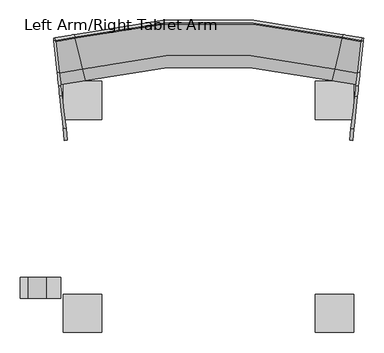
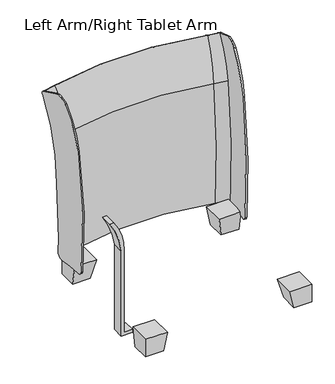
"""IFC4 building model written with IfcOpenShell, lengths in millimetres: furniture geometry, Steelcase Turnstone - Jenny - Seating - Lounge Chair : Left Arm/Right Tablet Arm."""

from ifc_helpers import new_model, si_unit, point, frame, frame_2d, origin, origin_with_axes, place, context, project, spatial, polyline, circle_curve, ellipse_curve, trimmed, segment, composite_curve, outline, extrude, faceted_brep, source, transform, mapped, element, save
from ifc_brep_helpers import plane_surface, revolved_surface, advanced_brep


def left_arm_right_tablet_arm_7bc5a1d5(model_context):
    return source(origin(), model_context, "Body", "SolidModel", [
        extrude(outline(composite_curve([segment(trimmed(circle_curve(frame_2d((-317.4695755, 631.5743694)), 14.4058816), [point((-317.4695755, 645.9802509))], [point((-317.4695755, 617.1684878))], False, "CARTESIAN"), True, "CONTINUOUS"), segment(trimmed(circle_curve(frame_2d((-317.4695755, 631.5743694)), 14.4058816), [point((-317.4695755, 617.1684878))], [point((-317.4695755, 645.9802509))], False, "CARTESIAN"), True, "CONTINUOUS")], self_intersect=False)), origin_with_axes(), (0.0, 0.0, 1.0), 7.083069),
        extrude(outline(composite_curve([segment(trimmed(circle_curve(frame_2d((318.3480103, 631.2568742)), 14.4535487), [point((318.3480103, 645.7104229))], [point((318.3480103, 616.8033255))], False, "CARTESIAN"), True, "CONTINUOUS"), segment(trimmed(circle_curve(frame_2d((318.3480103, 631.2568742)), 14.4535487), [point((318.3480103, 616.8033255))], [point((318.3480103, 645.7104229))], False, "CARTESIAN"), True, "CONTINUOUS")], self_intersect=False)), origin_with_axes(), (0.0, 0.0, 1.0), 7.083069),
        faceted_brep([(279.1777267, 593.0641473, 7.083069), (279.1777267, 669.2641473, 7.083069), (355.3777267, 669.2641473, 7.083069), (355.3777267, 593.0641473, 7.083069), (261.9561035, 575.8429601, 95.4116322), (355.3777267, 575.8429601, 95.4116322), (355.3777267, 669.2641473, 95.4116322), (261.9561035, 669.2641473, 95.4116322)], [[[0, 1, 2, 3]], [[4, 5, 6, 7]], [[4, 7, 1, 0]], [[7, 6, 2, 1]], [[6, 5, 3, 2]], [[5, 4, 0, 3]]]),
        faceted_brep([(-279.1777267, 593.0641473, 7.083069), (-355.3777267, 593.0641473, 7.083069), (-355.3777267, 669.2641473, 7.083069), (-279.1777267, 669.2641473, 7.083069), (-261.9561035, 575.8429601, 95.4116322), (-261.9561035, 669.2641473, 95.4116322), (-355.3777267, 669.2641473, 95.4116322), (-355.3777267, 575.8429601, 95.4116322)], [[[0, 1, 2, 3]], [[4, 5, 6, 7]], [[4, 7, 1, 0]], [[7, 6, 2, 1]], [[6, 5, 3, 2]], [[5, 4, 0, 3]]]),
        extrude(outline(composite_curve([segment(trimmed(circle_curve(frame_2d((-317.4695755, 90.6150358)), 14.4058816), [point((-317.4695755, 76.2091543))], [point((-317.4695755, 105.0209174))], False, "CARTESIAN"), True, "CONTINUOUS"), segment(trimmed(circle_curve(frame_2d((-317.4695755, 90.6150358)), 14.4058816), [point((-317.4695755, 105.0209174))], [point((-317.4695755, 76.2091543))], False, "CARTESIAN"), True, "CONTINUOUS")], self_intersect=False)), origin_with_axes(), (0.0, 0.0, 1.0), 7.083069),
        extrude(outline(composite_curve([segment(trimmed(circle_curve(frame_2d((318.3480103, 90.932531)), 14.4535487), [point((318.3480103, 76.4789822))], [point((318.3480103, 105.3860797))], False, "CARTESIAN"), True, "CONTINUOUS"), segment(trimmed(circle_curve(frame_2d((318.3480103, 90.932531)), 14.4535487), [point((318.3480103, 105.3860797))], [point((318.3480103, 76.4789822))], False, "CARTESIAN"), True, "CONTINUOUS")], self_intersect=False)), origin_with_axes(), (0.0, 0.0, 1.0), 7.083069),
        faceted_brep([(279.1777267, 129.1252579, 7.083069), (355.3777267, 129.1252579, 7.083069), (355.3777267, 52.9252579, 7.083069), (279.1777267, 52.9252579, 7.083069), (261.9561035, 146.3464451, 85.2737648), (261.9561035, 52.9252579, 85.2737648), (355.3777267, 52.9252579, 85.2737648), (355.3777267, 146.3464451, 85.2737648)], [[[0, 1, 2, 3]], [[4, 5, 6, 7]], [[4, 7, 1, 0]], [[7, 6, 2, 1]], [[6, 5, 3, 2]], [[5, 4, 0, 3]]]),
        faceted_brep([(-279.1777267, 129.1252579, 7.083069), (-279.1777267, 52.9252579, 7.083069), (-355.3777267, 52.9252579, 7.083069), (-355.3777267, 129.1252579, 7.083069), (-261.9561035, 146.3464451, 85.2737648), (-355.3777267, 146.3464451, 85.2737648), (-355.3777267, 52.9252579, 85.2737648), (-261.9561035, 52.9252579, 85.2737648)], [[[0, 1, 2, 3]], [[4, 5, 6, 7]], [[4, 7, 1, 0]], [[7, 6, 2, 1]], [[6, 5, 3, 2]], [[5, 4, 0, 3]]]),
        extrude(outline(composite_curve([segment(polyline([(451.6044174, -410.5083068), (69.2210428, -410.5083068), (69.2210428, -361.95), (81.9210443, -361.95), (81.9210443, -397.8085006), (452.3250069, -397.8085006)]), True, "CONTINUOUS"), segment(trimmed(circle_curve(frame_2d((452.3250069, -635.7650539)), 237.9565533), [point((452.3250069, -397.8085006))], [point((592.311266, -443.3406051))], False, "CARTESIAN"), True, "CONTINUOUS"), segment(polyline([(592.311266, -443.3406051), (592.311266, -460.7530746)]), True, "CONTINUOUS"), segment(trimmed(circle_curve(frame_2d((419.0031767, -723.9478054)), 315.1303859), [point((592.311266, -460.7530746))], [point((451.6044174, -410.5083068))], True, "CARTESIAN"), True, "CONTINUOUS")], self_intersect=False)), frame((0.0, 136.9954231, 0.0), z_axis=(0.0, 1.0, 0.0), x_axis=(0.0, 0.0, 1.0)), (0.0, 0.0, 1.0), 50.8000242),
        advanced_brep(
        [(-365.0328558, 688.9118721, 614.3798536), (-374.2086501, 766.5758751, 782.0850534), (-374.4577532, 768.6842856, 781.0193185), (-375.0846857, 773.9906478, 763.3929272), (-364.7240839, 686.2984239, 412.1857232), (-363.5844919, 676.6529077, 226.5942002), (-363.549176, 676.3539931, 111.3923483), (-362.6401057, 668.6596146, 90.0869227), (-327.0674538, 775.0009474, 782.0850534), (-308.774252, 698.9664071, 614.3798536), (-327.5640748, 777.0651215, 781.0193185), (-328.8139506, 782.2601513, 763.3929272), (-308.1586729, 696.4077914, 412.1857232), (-305.8867403, 686.964647, 226.5942002), (-305.8163331, 686.6720039, 111.3923483), (-304.0039772, 679.1390607, 90.0869227), (327.0674538, 775.0009474, 782.0850534), (308.774252, 698.9664071, 614.3798536), (327.5640748, 777.0651215, 781.0193185), (328.8139506, 782.2601513, 763.3929272), (308.1586729, 696.4077914, 412.1857232), (305.8867403, 686.964647, 226.5942002), (305.8163331, 686.6720039, 111.3923483), (304.0039772, 679.1390607, 90.0869227), (365.0328558, 688.9118721, 614.3798536), (362.6401057, 668.6596146, 90.0869227), (363.549176, 676.3539931, 111.3923483), (363.5844919, 676.6529077, 226.5942002), (364.7240839, 686.2984239, 412.1857232), (375.0846857, 773.9906478, 763.3929272), (374.4577532, 768.6842856, 781.0193185), (374.2086501, 766.5758751, 782.0850534)],
        [
            (0, 1, circle_curve(frame((-406.9820142, 1043.9699138, 549.7445151), z_axis=(-0.9930928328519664, -0.11733126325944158, 0.0), x_axis=(-0.11733126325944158, 0.9930928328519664, 0.0)), 363.3230957)),
            (1, 2),
            (2, 3, circle_curve(frame((-373.7892515, 763.0260816, 769.6690835), z_axis=(-0.9930928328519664, -0.11733126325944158, 0.0), x_axis=(-0.11733126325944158, 0.9930928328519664, 0.0)), 12.7)),
            (3, 4, circle_curve(frame((-444.1840732, 1358.8484643, 428.618251), z_axis=(0.9930928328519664, 0.11733126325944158, 0.0), x_axis=(-0.11733126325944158, 0.9930928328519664, 0.0)), 677.4270991)),
            (4, 5, circle_curve(frame((-222.1914301, -520.0991972, 382.7096079), z_axis=(-0.9930928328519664, -0.11733126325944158, 0.0), x_axis=(-0.11733126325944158, 0.9930928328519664, 0.0)), 1215.145925)),
            (5, 6, circle_curve(frame((-416.8275775, 1127.3028473, 167.8072561), z_axis=(0.9930928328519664, 0.11733126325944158, 0.0), x_axis=(-0.11733126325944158, 0.9930928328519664, 0.0)), 457.5763313)),
            (6, 7, circle_curve(frame((-360.6485798, 651.8033223, 108.3209937), z_axis=(-0.9930928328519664, -0.11733126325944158, 0.0), x_axis=(-0.11733126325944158, 0.9930928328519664, 0.0)), 24.9114856)),
            (7, 0, circle_curve(frame((-582.1375659, 2526.4880272, 279.8645269), z_axis=(-0.9930928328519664, -0.11733126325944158, 0.0), x_axis=(-0.11733126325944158, 0.9930928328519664, 0.0)), 1880.3513194)),
            (8, 1, circle_curve(frame((-421.6517332, 1168.1345426, 782.0850534), z_axis=(0.0, 0.0, -1.0), x_axis=(0.1173312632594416, -0.9930928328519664, 0.0)), 404.3515915)),
            (0, 9, circle_curve(frame((-421.6517332, 1168.1345426, 614.3798536), z_axis=(0.0, 0.0, 1.0), x_axis=(0.1173312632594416, -0.9930928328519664, 0.0)), 482.5557637)),
            (9, 8, circle_curve(frame((-392.4056407, 1046.5750026, 549.7445151), z_axis=(-0.9722568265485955, -0.2339159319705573, 0.0), x_axis=(-0.2339159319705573, 0.9722568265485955, 0.0)), 363.3230957)),
            (10, 2, circle_curve(frame((-421.6517332, 1168.1345426, 781.0193185), z_axis=(0.0, 0.0, -1.0), x_axis=(0.1173312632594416, -0.9930928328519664, 0.0)), 402.2285166)),
            (8, 10),
            (11, 3, circle_curve(frame((-421.6517332, 1168.1345426, 763.3929272), z_axis=(0.0, 0.0, -1.0), x_axis=(0.1173312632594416, -0.9930928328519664, 0.0)), 396.8852475)),
            (10, 11, circle_curve(frame((-326.2313253, 771.5256318, 769.6690835), z_axis=(-0.9722568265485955, -0.23391593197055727, 0.0), x_axis=(-0.23391593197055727, 0.9722568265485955, 0.0)), 12.7)),
            (12, 4, circle_curve(frame((-421.6517332, 1168.1345426, 412.1857232), z_axis=(0.0, 0.0, -1.0), x_axis=(0.1173312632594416, -0.9930928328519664, 0.0)), 485.187389)),
            (11, 12, circle_curve(frame((-466.5730368, 1354.8471098, 428.618251), z_axis=(0.9722568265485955, 0.23391593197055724, 0.0), x_axis=(-0.23391593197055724, 0.9722568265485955, 0.0)), 677.4270991)),
            (13, 5, circle_curve(frame((-421.6517332, 1168.1345426, 226.5942002), z_axis=(0.0, 0.0, -1.0), x_axis=(0.1173312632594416, -0.9930928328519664, 0.0)), 494.8999918)),
            (12, 13, circle_curve(frame((-24.0003198, -484.6784917, 382.7096079), z_axis=(-0.9722568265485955, -0.23391593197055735, 0.0), x_axis=(-0.23391593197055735, 0.9722568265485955, 0.0)), 1215.145925)),
            (14, 6, circle_curve(frame((-421.6517332, 1168.1345426, 111.3923483), z_axis=(0.0, 0.0, -1.0), x_axis=(0.1173312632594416, -0.9930928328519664, 0.0)), 495.2009855)),
            (13, 14, circle_curve(frame((-412.0341186, 1128.159534, 167.8072561), z_axis=(0.9722568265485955, 0.23391593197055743, 0.0), x_axis=(-0.23391593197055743, 0.9722568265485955, 0.0)), 457.5763313)),
            (15, 7, circle_curve(frame((-421.6517332, 1168.1345426, 90.0869227), z_axis=(0.0, 0.0, -1.0), x_axis=(0.1173312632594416, -0.9930928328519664, 0.0)), 502.9488799)),
            (14, 15, circle_curve(frame((-300.0335978, 662.6364289, 108.3209937), z_axis=(-0.9722568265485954, -0.2339159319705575, 0.0), x_axis=(-0.2339159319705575, 0.9722568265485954, 0.0)), 24.9114856)),
            (15, 9, circle_curve(frame((-741.6022058, 2497.9885145, 279.8645269), z_axis=(-0.9722568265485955, -0.23391593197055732, 0.0), x_axis=(-0.23391593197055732, 0.9722568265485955, 0.0)), 1880.3513194)),
            (16, 8, circle_curve(frame((0.0, -584.4343079, 782.0850534), z_axis=(0.0, 0.0, 1.0), x_axis=(-0.23391593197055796, 0.9722568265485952, 0.0)), 1398.2264955)),
            (9, 17, circle_curve(frame((0.0, -584.4343079, 614.3798536), z_axis=(0.0, 0.0, -1.0), x_axis=(-0.23391593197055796, 0.9722568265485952, 0.0)), 1320.0223232)),
            (17, 16, circle_curve(frame((392.4056407, 1046.5750026, 549.7445151), z_axis=(-0.972256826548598, 0.23391593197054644, 0.0), x_axis=(0.23391593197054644, 0.972256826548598, 0.0)), 363.3230957)),
            (18, 10, circle_curve(frame((0.0, -584.4343079, 781.0193185), z_axis=(0.0, 0.0, 1.0), x_axis=(-0.23391593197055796, 0.9722568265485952, 0.0)), 1400.3495704)),
            (16, 18),
            (19, 11, circle_curve(frame((0.0, -584.4343079, 763.3929272), z_axis=(0.0, 0.0, 1.0), x_axis=(-0.23391593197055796, 0.9722568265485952, 0.0)), 1405.6928394)),
            (18, 19, circle_curve(frame((326.2313253, 771.5256318, 769.6690835), z_axis=(-0.9722568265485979, 0.233915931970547, 0.0), x_axis=(0.233915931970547, 0.9722568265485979, 0.0)), 12.7)),
            (20, 12, circle_curve(frame((0.0, -584.4343079, 412.1857232), z_axis=(0.0, 0.0, 1.0), x_axis=(-0.23391593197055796, 0.9722568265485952, 0.0)), 1317.3906979)),
            (19, 20, circle_curve(frame((466.5730368, 1354.8471098, 428.618251), z_axis=(0.9722568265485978, -0.2339159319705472, 0.0), x_axis=(0.2339159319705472, 0.9722568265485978, 0.0)), 677.4270991)),
            (21, 13, circle_curve(frame((0.0, -584.4343079, 226.5942002), z_axis=(0.0, 0.0, 1.0), x_axis=(-0.23391593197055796, 0.9722568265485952, 0.0)), 1307.6780951)),
            (20, 21, circle_curve(frame((24.0003198, -484.6784917, 382.7096079), z_axis=(-0.972256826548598, 0.2339159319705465, 0.0), x_axis=(0.2339159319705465, 0.972256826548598, 0.0)), 1215.145925)),
            (22, 14, circle_curve(frame((0.0, -584.4343079, 111.3923483), z_axis=(0.0, 0.0, 1.0), x_axis=(-0.23391593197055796, 0.9722568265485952, 0.0)), 1307.3771015)),
            (21, 22, circle_curve(frame((412.0341186, 1128.159534, 167.8072561), z_axis=(0.972256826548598, -0.2339159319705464, 0.0), x_axis=(0.2339159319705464, 0.972256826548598, 0.0)), 457.5763313)),
            (23, 15, circle_curve(frame((0.0, -584.4343079, 90.0869227), z_axis=(0.0, 0.0, 1.0), x_axis=(-0.23391593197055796, 0.9722568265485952, 0.0)), 1299.629207)),
            (22, 23, circle_curve(frame((300.0335978, 662.6364289, 108.3209937), z_axis=(-0.972256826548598, 0.2339159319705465, 0.0), x_axis=(0.2339159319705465, 0.972256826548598, 0.0)), 24.9114856)),
            (23, 17, circle_curve(frame((741.6022058, 2497.9885145, 279.8645269), z_axis=(-0.9722568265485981, 0.23391593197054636, 0.0), x_axis=(0.23391593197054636, 0.9722568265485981, 0.0)), 1880.3513194)),
            (24, 25, circle_curve(frame((582.1375659, 2526.4880272, 279.8645269), z_axis=(0.9930928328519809, -0.11733126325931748, 0.0), x_axis=(0.11733126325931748, 0.9930928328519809, 0.0)), 1880.3513194)),
            (25, 26, circle_curve(frame((360.6485798, 651.8033223, 108.3209937), z_axis=(0.9930928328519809, -0.11733126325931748, 0.0), x_axis=(0.11733126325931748, 0.9930928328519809, 0.0)), 24.9114856)),
            (26, 27, circle_curve(frame((416.8275775, 1127.3028473, 167.8072561), z_axis=(-0.9930928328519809, 0.11733126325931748, 0.0), x_axis=(0.11733126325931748, 0.9930928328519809, 0.0)), 457.5763313)),
            (27, 28, circle_curve(frame((222.1914301, -520.0991972, 382.7096079), z_axis=(0.9930928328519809, -0.11733126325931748, 0.0), x_axis=(0.11733126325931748, 0.9930928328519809, 0.0)), 1215.145925)),
            (28, 29, circle_curve(frame((444.1840732, 1358.8484643, 428.618251), z_axis=(-0.9930928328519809, 0.11733126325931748, 0.0), x_axis=(0.11733126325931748, 0.9930928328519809, 0.0)), 677.4270991)),
            (29, 30, circle_curve(frame((373.7892515, 763.0260816, 769.6690835), z_axis=(0.9930928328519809, -0.11733126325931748, 0.0), x_axis=(0.11733126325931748, 0.9930928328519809, 0.0)), 12.7)),
            (30, 31),
            (31, 24, circle_curve(frame((406.9820142, 1043.9699138, 549.7445151), z_axis=(0.9930928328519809, -0.11733126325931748, 0.0), x_axis=(0.11733126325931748, 0.9930928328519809, 0.0)), 363.3230957)),
            (31, 16, circle_curve(frame((421.6517332, 1168.1345426, 782.0850534), z_axis=(0.0, 0.0, -1.0), x_axis=(-0.2339159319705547, -0.972256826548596, 0.0)), 404.3515915)),
            (17, 24, circle_curve(frame((421.6517332, 1168.1345426, 614.3798536), z_axis=(0.0, 0.0, 1.0), x_axis=(-0.2339159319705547, -0.972256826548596, 0.0)), 482.5557637)),
            (30, 18, circle_curve(frame((421.6517332, 1168.1345426, 781.0193185), z_axis=(0.0, 0.0, -1.0), x_axis=(-0.2339159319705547, -0.972256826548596, 0.0)), 402.2285166)),
            (29, 19, circle_curve(frame((421.6517332, 1168.1345426, 763.3929272), z_axis=(0.0, 0.0, -1.0), x_axis=(-0.2339159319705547, -0.972256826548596, 0.0)), 396.8852475)),
            (28, 20, circle_curve(frame((421.6517332, 1168.1345426, 412.1857232), z_axis=(0.0, 0.0, -1.0), x_axis=(-0.2339159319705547, -0.972256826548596, 0.0)), 485.187389)),
            (27, 21, circle_curve(frame((421.6517332, 1168.1345426, 226.5942002), z_axis=(0.0, 0.0, -1.0), x_axis=(-0.2339159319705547, -0.972256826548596, 0.0)), 494.8999918)),
            (26, 22, circle_curve(frame((421.6517332, 1168.1345426, 111.3923483), z_axis=(0.0, 0.0, -1.0), x_axis=(-0.2339159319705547, -0.972256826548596, 0.0)), 495.2009855)),
            (25, 23, circle_curve(frame((421.6517332, 1168.1345426, 90.0869227), z_axis=(0.0, 0.0, -1.0), x_axis=(-0.2339159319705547, -0.972256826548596, 0.0)), 502.9488799)),
        ],
        [
            plane_surface(frame((-355.6, 609.0720985, 0.0), z_axis=(-0.9930928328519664, -0.1173312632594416, 0.0), x_axis=(0.0, 0.0, 1.0))),
            revolved_surface(trimmed(ellipse_curve(frame((-406.9820142, 1043.9699138, 549.7445151), z_axis=(-0.9930928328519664, -0.11733126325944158, 0.0), x_axis=(-0.11733126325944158, 0.9930928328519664, 0.0)), 363.3230957, 363.3230957), [point((-365.0328558, 688.9118721, 614.3798536))], [point((-374.2086501, 766.5758751, 782.0850534))], True, "CARTESIAN"), (-421.6517332, 1168.1345426, 0.0), (0.0, 0.0, 1.0)),
            revolved_surface(polyline([(-374.2086501, 766.5758751, 782.0850534), (-374.4577532, 768.6842856, 781.0193185)]), (-421.6517332, 1168.1345426, 0.0), (0.0, 0.0, 1.0)),
            revolved_surface(trimmed(ellipse_curve(frame((-373.7892515, 763.0260816, 769.6690835), z_axis=(-0.9930928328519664, -0.11733126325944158, 0.0), x_axis=(-0.11733126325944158, 0.9930928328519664, 0.0)), 12.7, 12.7), [point((-374.4577532, 768.6842856, 781.0193185))], [point((-375.0846857, 773.9906478, 763.3929272))], True, "CARTESIAN"), (-421.6517332, 1168.1345426, 0.0), (0.0, 0.0, 1.0)),
            revolved_surface(trimmed(ellipse_curve(frame((-444.1840732, 1358.8484643, 428.618251), z_axis=(0.9930928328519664, 0.11733126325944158, 0.0), x_axis=(-0.11733126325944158, 0.9930928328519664, 0.0)), 677.4270991, 677.4270991), [point((-375.0846857, 773.9906478, 763.3929272))], [point((-364.7240839, 686.2984239, 412.1857232))], True, "CARTESIAN"), (-421.6517332, 1168.1345426, 0.0), (0.0, 0.0, 1.0)),
            revolved_surface(trimmed(ellipse_curve(frame((-222.1914301, -520.0991972, 382.7096079), z_axis=(-0.9930928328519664, -0.11733126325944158, 0.0), x_axis=(-0.11733126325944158, 0.9930928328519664, 0.0)), 1215.145925, 1215.145925), [point((-364.7240839, 686.2984239, 412.1857232))], [point((-363.5844919, 676.6529077, 226.5942002))], True, "CARTESIAN"), (-421.6517332, 1168.1345426, 0.0), (0.0, 0.0, 1.0)),
            revolved_surface(trimmed(ellipse_curve(frame((-416.8275775, 1127.3028473, 167.8072561), z_axis=(0.9930928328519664, 0.11733126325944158, 0.0), x_axis=(-0.11733126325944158, 0.9930928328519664, 0.0)), 457.5763313, 457.5763313), [point((-363.5844919, 676.6529077, 226.5942002))], [point((-363.549176, 676.3539931, 111.3923483))], True, "CARTESIAN"), (-421.6517332, 1168.1345426, 0.0), (0.0, 0.0, 1.0)),
            revolved_surface(trimmed(ellipse_curve(frame((-360.6485798, 651.8033223, 108.3209937), z_axis=(-0.9930928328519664, -0.11733126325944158, 0.0), x_axis=(-0.11733126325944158, 0.9930928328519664, 0.0)), 24.9114856, 24.9114856), [point((-363.549176, 676.3539931, 111.3923483))], [point((-362.6401057, 668.6596146, 90.0869227))], True, "CARTESIAN"), (-421.6517332, 1168.1345426, 0.0), (0.0, 0.0, 1.0)),
            revolved_surface(trimmed(ellipse_curve(frame((-582.1375659, 2526.4880272, 279.8645269), z_axis=(-0.9930928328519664, -0.11733126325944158, 0.0), x_axis=(-0.11733126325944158, 0.9930928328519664, 0.0)), 1880.3513194, 1880.3513194), [point((-362.6401057, 668.6596146, 90.0869227))], [point((-365.0328558, 688.9118721, 614.3798536))], True, "CARTESIAN"), (-421.6517332, 1168.1345426, 0.0), (0.0, 0.0, 1.0)),
            revolved_surface(trimmed(ellipse_curve(frame((-392.4056407, 1046.5750026, 549.7445151), z_axis=(-0.9722568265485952, -0.23391593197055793, 0.0), x_axis=(-0.23391593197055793, 0.9722568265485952, 0.0)), 363.3230957, 363.3230957), [point((-308.774252, 698.9664071, 614.3798536))], [point((-327.0674538, 775.0009474, 782.0850534))], True, "CARTESIAN"), (0.0, -584.4343079, 0.0), (0.0, 0.0, -1.0)),
            revolved_surface(polyline([(-327.0674538, 775.0009474, 782.0850534), (-327.5640748, 777.0651215, 781.0193185)]), (0.0, -584.4343079, 0.0), (0.0, 0.0, -1.0)),
            revolved_surface(trimmed(ellipse_curve(frame((-326.2313253, 771.5256318, 769.6690835), z_axis=(-0.9722568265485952, -0.23391593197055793, 0.0), x_axis=(-0.23391593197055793, 0.9722568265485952, 0.0)), 12.7, 12.7), [point((-327.5640748, 777.0651215, 781.0193185))], [point((-328.8139506, 782.2601513, 763.3929272))], True, "CARTESIAN"), (0.0, -584.4343079, 0.0), (0.0, 0.0, -1.0)),
            revolved_surface(trimmed(ellipse_curve(frame((-466.5730368, 1354.8471098, 428.618251), z_axis=(0.9722568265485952, 0.23391593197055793, 0.0), x_axis=(-0.23391593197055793, 0.9722568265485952, 0.0)), 677.4270991, 677.4270991), [point((-328.8139506, 782.2601513, 763.3929272))], [point((-308.1586729, 696.4077914, 412.1857232))], True, "CARTESIAN"), (0.0, -584.4343079, 0.0), (0.0, 0.0, -1.0)),
            revolved_surface(trimmed(ellipse_curve(frame((-24.0003198, -484.6784917, 382.7096079), z_axis=(-0.9722568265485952, -0.23391593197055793, 0.0), x_axis=(-0.23391593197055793, 0.9722568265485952, 0.0)), 1215.145925, 1215.145925), [point((-308.1586729, 696.4077914, 412.1857232))], [point((-305.8867403, 686.964647, 226.5942002))], True, "CARTESIAN"), (0.0, -584.4343079, 0.0), (0.0, 0.0, -1.0)),
            revolved_surface(trimmed(ellipse_curve(frame((-412.0341186, 1128.159534, 167.8072561), z_axis=(0.9722568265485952, 0.23391593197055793, 0.0), x_axis=(-0.23391593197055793, 0.9722568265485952, 0.0)), 457.5763313, 457.5763313), [point((-305.8867403, 686.964647, 226.5942002))], [point((-305.8163331, 686.6720039, 111.3923483))], True, "CARTESIAN"), (0.0, -584.4343079, 0.0), (0.0, 0.0, -1.0)),
            revolved_surface(trimmed(ellipse_curve(frame((-300.0335978, 662.6364289, 108.3209937), z_axis=(-0.9722568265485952, -0.23391593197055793, 0.0), x_axis=(-0.23391593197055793, 0.9722568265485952, 0.0)), 24.9114856, 24.9114856), [point((-305.8163331, 686.6720039, 111.3923483))], [point((-304.0039772, 679.1390607, 90.0869227))], True, "CARTESIAN"), (0.0, -584.4343079, 0.0), (0.0, 0.0, -1.0)),
            revolved_surface(trimmed(ellipse_curve(frame((-741.6022058, 2497.9885145, 279.8645269), z_axis=(-0.9722568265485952, -0.23391593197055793, 0.0), x_axis=(-0.23391593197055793, 0.9722568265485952, 0.0)), 1880.3513194, 1880.3513194), [point((-304.0039772, 679.1390607, 90.0869227))], [point((-308.774252, 698.9664071, 614.3798536))], True, "CARTESIAN"), (0.0, -584.4343079, 0.0), (0.0, 0.0, -1.0)),
            plane_surface(frame((355.6, 609.0720985, 0.0), z_axis=(0.993092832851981, -0.11733126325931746, 0.0), x_axis=(0.0, 0.0, 1.0))),
            revolved_surface(trimmed(ellipse_curve(frame((392.4056407, 1046.5750026, 549.7445151), z_axis=(-0.972256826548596, 0.2339159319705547, 0.0), x_axis=(0.2339159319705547, 0.972256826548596, 0.0)), 363.3230957, 363.3230957), [point((308.774252, 698.9664071, 614.3798536))], [point((327.0674538, 775.0009474, 782.0850534))], True, "CARTESIAN"), (421.6517332, 1168.1345426, 0.0), (0.0, 0.0, 1.0)),
            revolved_surface(polyline([(327.0674538, 775.0009474, 782.0850534), (327.5640748, 777.0651215, 781.0193185)]), (421.6517332, 1168.1345426, 0.0), (0.0, 0.0, 1.0)),
            revolved_surface(trimmed(ellipse_curve(frame((326.2313253, 771.5256318, 769.6690835), z_axis=(-0.972256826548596, 0.2339159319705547, 0.0), x_axis=(0.2339159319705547, 0.972256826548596, 0.0)), 12.7, 12.7), [point((327.5640748, 777.0651215, 781.0193185))], [point((328.8139506, 782.2601513, 763.3929272))], True, "CARTESIAN"), (421.6517332, 1168.1345426, 0.0), (0.0, 0.0, 1.0)),
            revolved_surface(trimmed(ellipse_curve(frame((466.5730368, 1354.8471098, 428.618251), z_axis=(0.972256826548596, -0.2339159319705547, 0.0), x_axis=(0.2339159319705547, 0.972256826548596, 0.0)), 677.4270991, 677.4270991), [point((328.8139506, 782.2601513, 763.3929272))], [point((308.1586729, 696.4077914, 412.1857232))], True, "CARTESIAN"), (421.6517332, 1168.1345426, 0.0), (0.0, 0.0, 1.0)),
            revolved_surface(trimmed(ellipse_curve(frame((24.0003198, -484.6784917, 382.7096079), z_axis=(-0.972256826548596, 0.2339159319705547, 0.0), x_axis=(0.2339159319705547, 0.972256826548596, 0.0)), 1215.145925, 1215.145925), [point((308.1586729, 696.4077914, 412.1857232))], [point((305.8867403, 686.964647, 226.5942002))], True, "CARTESIAN"), (421.6517332, 1168.1345426, 0.0), (0.0, 0.0, 1.0)),
            revolved_surface(trimmed(ellipse_curve(frame((412.0341186, 1128.159534, 167.8072561), z_axis=(0.972256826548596, -0.2339159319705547, 0.0), x_axis=(0.2339159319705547, 0.972256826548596, 0.0)), 457.5763313, 457.5763313), [point((305.8867403, 686.964647, 226.5942002))], [point((305.8163331, 686.6720039, 111.3923483))], True, "CARTESIAN"), (421.6517332, 1168.1345426, 0.0), (0.0, 0.0, 1.0)),
            revolved_surface(trimmed(ellipse_curve(frame((300.0335978, 662.6364289, 108.3209937), z_axis=(-0.972256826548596, 0.2339159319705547, 0.0), x_axis=(0.2339159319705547, 0.972256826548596, 0.0)), 24.9114856, 24.9114856), [point((305.8163331, 686.6720039, 111.3923483))], [point((304.0039772, 679.1390607, 90.0869227))], True, "CARTESIAN"), (421.6517332, 1168.1345426, 0.0), (0.0, 0.0, 1.0)),
            revolved_surface(trimmed(ellipse_curve(frame((741.6022058, 2497.9885145, 279.8645269), z_axis=(-0.972256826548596, 0.2339159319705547, 0.0), x_axis=(0.2339159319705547, 0.972256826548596, 0.0)), 1880.3513194, 1880.3513194), [point((304.0039772, 679.1390607, 90.0869227))], [point((308.774252, 698.9664071, 614.3798536))], True, "CARTESIAN"), (421.6517332, 1168.1345426, 0.0), (0.0, 0.0, 1.0)),
        ],
        [
            (0, [[1, 2, 3, 4, 5, 6, 7, 8]]),
            (1, [[9, -1, 10, 11]]),
            (2, [[12, -2, -9, 13]]),
            (3, [[14, -3, -12, 15]]),
            (4, [[16, -4, -14, 17]]),
            (5, [[18, -5, -16, 19]]),
            (6, [[20, -6, -18, 21]]),
            (7, [[22, -7, -20, 23]]),
            (8, [[-10, -8, -22, 24]]),
            (9, [[25, -11, 26, 27]]),
            (10, [[28, -13, -25, 29]]),
            (11, [[30, -15, -28, 31]]),
            (12, [[32, -17, -30, 33]]),
            (13, [[34, -19, -32, 35]]),
            (14, [[36, -21, -34, 37]]),
            (15, [[38, -23, -36, 39]]),
            (16, [[-26, -24, -38, 40]]),
            (17, [[41, 42, 43, 44, 45, 46, 47, 48]]),
            (18, [[49, -27, 50, -48]]),
            (19, [[51, -29, -49, -47]]),
            (20, [[52, -31, -51, -46]]),
            (21, [[53, -33, -52, -45]]),
            (22, [[54, -35, -53, -44]]),
            (23, [[55, -37, -54, -43]]),
            (24, [[56, -39, -55, -42]]),
            (25, [[-50, -40, -56, -41]]),
        ],
    ),
        advanced_brep(
        [(371.0231422, 690.4168678, 813.9027777), (367.5078894, 657.2478941, 814.4538477), (364.8381433, 632.056893, 797.7221008), (356.4068462, 552.5014564, 627.8736036), (354.3284196, 532.8899867, 97.0710008), (356.3949504, 552.3892108, 81.9987921), (366.5367036, 648.0840483, 83.5957513), (369.4625291, 675.6913448, 111.3923483), (369.4942508, 675.9906622, 226.5942002), (370.5178614, 685.6491753, 412.1857232), (379.8240192, 773.4595598, 763.3929272), (379.2608923, 768.1460475, 781.0193185), (365.286616, 691.0597009, 813.9027777), (374.4577532, 768.6842856, 781.0193185), (375.0846857, 773.9906478, 763.3929272), (364.7240839, 686.2984239, 412.1857232), (363.5844919, 676.6529077, 226.5942002), (363.549176, 676.3539931, 111.3923483), (360.2918368, 648.7838459, 83.5957513), (349.0009614, 553.2177786, 81.9987921), (346.7002803, 533.7447933, 97.0710008), (349.0142051, 553.3298731, 627.8736036), (358.4008193, 632.7782572, 797.7221008), (361.3730638, 657.9353605, 814.4538477)],
        [
            (0, 1, circle_curve(frame((369.1763053, 672.9906155, 762.9432742), z_axis=(0.9944309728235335, -0.10538994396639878, 0.0), x_axis=(-0.10538994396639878, -0.9944309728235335, 0.0)), 53.8883667)),
            (1, 2, circle_curve(frame((369.1763053, 672.9906155, 762.9432742), z_axis=(0.9944309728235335, -0.10538994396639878, 0.0), x_axis=(-0.10538994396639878, -0.9944309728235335, 0.0)), 53.8883667)),
            (2, 3, circle_curve(frame((394.086654, 908.03792, 563.2382651), z_axis=(0.9944309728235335, -0.10538994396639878, 0.0), x_axis=(-0.10538994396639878, -0.9944309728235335, 0.0)), 363.3230957)),
            (3, 4, circle_curve(frame((551.415854, 2392.5536479, 293.3582769), z_axis=(0.9944309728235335, -0.10538994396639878, 0.0), x_axis=(-0.10538994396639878, -0.9944309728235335, 0.0)), 1880.3513194)),
            (4, 5, circle_curve(frame((356.1164347, 549.7612128, 98.8517567), z_axis=(0.9944309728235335, -0.10538994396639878, 0.0), x_axis=(-0.10538994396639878, -0.9944309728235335, 0.0)), 17.0589085)),
            (5, 6, circle_curve(frame((362.0675508, 605.9143321, -261.2499371), z_axis=(-0.9944309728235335, 0.10538994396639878, 0.0), x_axis=(-0.10538994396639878, -0.9944309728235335, 0.0)), 347.443243)),
            (6, 7, circle_curve(frame((366.8571394, 651.1075933, 108.3209937), z_axis=(0.9944309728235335, -0.10538994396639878, 0.0), x_axis=(-0.10538994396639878, -0.9944309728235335, 0.0)), 24.9114856)),
            (7, 8, circle_curve(frame((417.3185531, 1127.2478287, 167.8072561), z_axis=(-0.9944309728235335, 0.10538994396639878, 0.0), x_axis=(-0.10538994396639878, -0.9944309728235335, 0.0)), 457.5763313)),
            (8, 9, circle_curve(frame((242.4913834, -522.3740028, 382.7096079), z_axis=(0.9944309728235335, -0.10538994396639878, 0.0), x_axis=(-0.10538994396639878, -0.9944309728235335, 0.0)), 1215.145925)),
            (9, 10, circle_curve(frame((441.8908577, 1359.1054412, 428.618251), z_axis=(-0.9944309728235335, 0.10538994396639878, 0.0), x_axis=(-0.10538994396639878, -0.9944309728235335, 0.0)), 677.4270991)),
            (10, 11, circle_curve(frame((378.660427, 762.4802194, 769.6690835), z_axis=(0.9944309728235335, -0.10538994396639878, 0.0), x_axis=(-0.10538994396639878, -0.9944309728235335, 0.0)), 12.7)),
            (11, 0, circle_curve(frame((349.3215569, 485.6465852, 215.0940543), z_axis=(0.9944309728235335, -0.10538994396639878, 0.0), x_axis=(-0.10538994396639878, -0.9944309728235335, 0.0)), 633.2248531)),
            (12, 13, circle_curve(frame((341.1261096, 486.5649641, 215.0940543), z_axis=(-0.9930928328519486, 0.11733126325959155, 0.0), x_axis=(-0.11733126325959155, -0.9930928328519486, 0.0)), 633.2248531)),
            (13, 14, circle_curve(frame((373.7892515, 763.0260816, 769.6690835), z_axis=(-0.9930928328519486, 0.11733126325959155, 0.0), x_axis=(-0.11733126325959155, -0.9930928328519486, 0.0)), 12.7)),
            (14, 15, circle_curve(frame((444.1840732, 1358.8484643, 428.618251), z_axis=(0.9930928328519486, -0.11733126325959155, 0.0), x_axis=(-0.11733126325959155, -0.9930928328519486, 0.0)), 677.4270991)),
            (15, 16, circle_curve(frame((222.1914301, -520.0991972, 382.7096079), z_axis=(-0.9930928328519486, 0.11733126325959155, 0.0), x_axis=(-0.11733126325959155, -0.9930928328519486, 0.0)), 1215.145925)),
            (16, 17, circle_curve(frame((416.8275775, 1127.3028473, 167.8072561), z_axis=(0.9930928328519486, -0.11733126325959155, 0.0), x_axis=(-0.11733126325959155, -0.9930928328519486, 0.0)), 457.5763313)),
            (17, 18, circle_curve(frame((360.6485798, 651.8033223, 108.3209937), z_axis=(-0.9930928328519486, 0.11733126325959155, 0.0), x_axis=(-0.11733126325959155, -0.9930928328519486, 0.0)), 24.9114856)),
            (18, 19, circle_curve(frame((355.3163018, 606.6708747, -261.2499371), z_axis=(0.9930928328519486, -0.11733126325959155, 0.0), x_axis=(-0.11733126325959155, -0.9930928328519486, 0.0)), 347.443243)),
            (19, 20, circle_curve(frame((348.6908883, 550.5933169, 98.8517567), z_axis=(-0.9930928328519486, 0.11733126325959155, 0.0), x_axis=(-0.11733126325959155, -0.9930928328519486, 0.0)), 17.0589085)),
            (20, 21, circle_curve(frame((566.1189152, 2390.9060281, 293.3582769), z_axis=(-0.9930928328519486, 0.11733126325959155, 0.0), x_axis=(-0.11733126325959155, -0.9930928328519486, 0.0)), 1880.3513194)),
            (21, 22, circle_curve(frame((390.9633635, 908.3879148, 563.2382651), z_axis=(-0.9930928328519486, 0.11733126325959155, 0.0), x_axis=(-0.11733126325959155, -0.9930928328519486, 0.0)), 363.3230957)),
            (22, 23, circle_curve(frame((363.2305214, 673.6568979, 762.9432742), z_axis=(-0.9930928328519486, 0.11733126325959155, 0.0), x_axis=(-0.11733126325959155, -0.9930928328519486, 0.0)), 53.8883667)),
            (23, 12, circle_curve(frame((363.2305214, 673.6568979, 762.9432742), z_axis=(-0.9930928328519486, 0.11733126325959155, 0.0), x_axis=(-0.11733126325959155, -0.9930928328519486, 0.0)), 53.8883667)),
            (23, 1, circle_curve(frame((421.6517332, 1168.1345426, 814.4538477), z_axis=(0.0, 0.0, 1.0), x_axis=(-0.10538994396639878, -0.9944309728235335, 0.0)), 513.7477235)),
            (0, 12, circle_curve(frame((421.6517332, 1168.1345426, 813.9027777), z_axis=(0.0, 0.0, -1.0), x_axis=(-0.10538994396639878, -0.9944309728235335, 0.0)), 480.3929964)),
            (22, 2, circle_curve(frame((421.6517332, 1168.1345426, 797.7221008), z_axis=(0.0, 0.0, 1.0), x_axis=(-0.10538994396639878, -0.9944309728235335, 0.0)), 539.0797997)),
            (21, 3, circle_curve(frame((421.6517332, 1168.1345426, 627.8736036), z_axis=(0.0, 0.0, 1.0), x_axis=(-0.10538994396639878, -0.9944309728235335, 0.0)), 619.0807637)),
            (20, 4, circle_curve(frame((421.6517332, 1168.1345426, 97.0710008), z_axis=(0.0, 0.0, 1.0), x_axis=(-0.10538994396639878, -0.9944309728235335, 0.0)), 638.8020619)),
            (19, 5, circle_curve(frame((421.6517332, 1168.1345426, 81.9987921), z_axis=(0.0, 0.0, 1.0), x_axis=(-0.10538994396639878, -0.9944309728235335, 0.0)), 619.193638)),
            (18, 6, circle_curve(frame((421.6517332, 1168.1345426, 83.5957513), z_axis=(0.0, 0.0, 1.0), x_axis=(-0.10538994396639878, -0.9944309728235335, 0.0)), 522.9628888)),
            (17, 7, circle_curve(frame((421.6517332, 1168.1345426, 111.3923483), z_axis=(0.0, 0.0, 1.0), x_axis=(-0.10538994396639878, -0.9944309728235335, 0.0)), 495.2009855)),
            (16, 8, circle_curve(frame((421.6517332, 1168.1345426, 226.5942002), z_axis=(0.0, 0.0, 1.0), x_axis=(-0.10538994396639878, -0.9944309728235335, 0.0)), 494.8999918)),
            (15, 9, circle_curve(frame((421.6517332, 1168.1345426, 412.1857232), z_axis=(0.0, 0.0, 1.0), x_axis=(-0.10538994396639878, -0.9944309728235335, 0.0)), 485.187389)),
            (14, 10, circle_curve(frame((421.6517332, 1168.1345426, 763.3929272), z_axis=(0.0, 0.0, 1.0), x_axis=(-0.10538994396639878, -0.9944309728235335, 0.0)), 396.8852475)),
            (13, 11, circle_curve(frame((421.6517332, 1168.1345426, 781.0193185), z_axis=(0.0, 0.0, 1.0), x_axis=(-0.10538994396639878, -0.9944309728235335, 0.0)), 402.2285166)),
        ],
        [
            plane_surface(frame((362.3223757, 608.3187915, 0.0), z_axis=(0.9944309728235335, -0.10538994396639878, 0.0), x_axis=(0.0, 0.0, 1.0))),
            plane_surface(frame((355.6, 609.0720985, 0.0), z_axis=(-0.9930928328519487, 0.11733126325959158, 0.0), x_axis=(0.0, 0.0, 1.0))),
            revolved_surface(trimmed(ellipse_curve(frame((369.1763053, 672.9906155, 762.9432742), z_axis=(0.9944309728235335, -0.10538994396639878, 0.0), x_axis=(-0.10538994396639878, -0.9944309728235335, 0.0)), 53.8883667, 53.8883667), [point((371.0231422, 690.4168678, 813.9027777))], [point((367.5078894, 657.2478941, 814.4538477))], True, "CARTESIAN"), (421.6517332, 1168.1345426, 0.0), (0.0, 0.0, -1.0)),
            revolved_surface(trimmed(ellipse_curve(frame((369.1763053, 672.9906155, 762.9432742), z_axis=(0.9944309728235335, -0.10538994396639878, 0.0), x_axis=(-0.10538994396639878, -0.9944309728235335, 0.0)), 53.8883667, 53.8883667), [point((367.5078894, 657.2478941, 814.4538477))], [point((364.8381433, 632.056893, 797.7221008))], True, "CARTESIAN"), (421.6517332, 1168.1345426, 0.0), (0.0, 0.0, -1.0)),
            revolved_surface(trimmed(ellipse_curve(frame((394.086654, 908.03792, 563.2382651), z_axis=(0.9944309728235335, -0.10538994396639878, 0.0), x_axis=(-0.10538994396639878, -0.9944309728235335, 0.0)), 363.3230957, 363.3230957), [point((364.8381433, 632.056893, 797.7221008))], [point((356.4068462, 552.5014564, 627.8736036))], True, "CARTESIAN"), (421.6517332, 1168.1345426, 0.0), (0.0, 0.0, -1.0)),
            revolved_surface(trimmed(ellipse_curve(frame((551.415854, 2392.5536479, 293.3582769), z_axis=(0.9944309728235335, -0.10538994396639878, 0.0), x_axis=(-0.10538994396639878, -0.9944309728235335, 0.0)), 1880.3513194, 1880.3513194), [point((356.4068462, 552.5014564, 627.8736036))], [point((354.3284196, 532.8899867, 97.0710008))], True, "CARTESIAN"), (421.6517332, 1168.1345426, 0.0), (0.0, 0.0, -1.0)),
            revolved_surface(trimmed(ellipse_curve(frame((356.1164347, 549.7612128, 98.8517567), z_axis=(0.9944309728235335, -0.10538994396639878, 0.0), x_axis=(-0.10538994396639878, -0.9944309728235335, 0.0)), 17.0589085, 17.0589085), [point((354.3284196, 532.8899867, 97.0710008))], [point((356.3949504, 552.3892108, 81.9987921))], True, "CARTESIAN"), (421.6517332, 1168.1345426, 0.0), (0.0, 0.0, -1.0)),
            revolved_surface(trimmed(ellipse_curve(frame((362.0675508, 605.9143321, -261.2499371), z_axis=(-0.9944309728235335, 0.10538994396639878, 0.0), x_axis=(-0.10538994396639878, -0.9944309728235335, 0.0)), 347.443243, 347.443243), [point((356.3949504, 552.3892108, 81.9987921))], [point((366.5367036, 648.0840483, 83.5957513))], True, "CARTESIAN"), (421.6517332, 1168.1345426, 0.0), (0.0, 0.0, -1.0)),
            revolved_surface(trimmed(ellipse_curve(frame((366.8571394, 651.1075933, 108.3209937), z_axis=(0.9944309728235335, -0.10538994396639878, 0.0), x_axis=(-0.10538994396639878, -0.9944309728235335, 0.0)), 24.9114856, 24.9114856), [point((366.5367036, 648.0840483, 83.5957513))], [point((369.4625291, 675.6913448, 111.3923483))], True, "CARTESIAN"), (421.6517332, 1168.1345426, 0.0), (0.0, 0.0, -1.0)),
            revolved_surface(trimmed(ellipse_curve(frame((417.3185531, 1127.2478287, 167.8072561), z_axis=(-0.9944309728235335, 0.10538994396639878, 0.0), x_axis=(-0.10538994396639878, -0.9944309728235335, 0.0)), 457.5763313, 457.5763313), [point((369.4625291, 675.6913448, 111.3923483))], [point((369.4942508, 675.9906622, 226.5942002))], True, "CARTESIAN"), (421.6517332, 1168.1345426, 0.0), (0.0, 0.0, -1.0)),
            revolved_surface(trimmed(ellipse_curve(frame((242.4913834, -522.3740028, 382.7096079), z_axis=(0.9944309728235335, -0.10538994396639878, 0.0), x_axis=(-0.10538994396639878, -0.9944309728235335, 0.0)), 1215.145925, 1215.145925), [point((369.4942508, 675.9906622, 226.5942002))], [point((370.5178614, 685.6491753, 412.1857232))], True, "CARTESIAN"), (421.6517332, 1168.1345426, 0.0), (0.0, 0.0, -1.0)),
            revolved_surface(trimmed(ellipse_curve(frame((441.8908577, 1359.1054412, 428.618251), z_axis=(-0.9944309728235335, 0.10538994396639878, 0.0), x_axis=(-0.10538994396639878, -0.9944309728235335, 0.0)), 677.4270991, 677.4270991), [point((370.5178614, 685.6491753, 412.1857232))], [point((379.8240192, 773.4595598, 763.3929272))], True, "CARTESIAN"), (421.6517332, 1168.1345426, 0.0), (0.0, 0.0, -1.0)),
            revolved_surface(trimmed(ellipse_curve(frame((378.660427, 762.4802194, 769.6690835), z_axis=(0.9944309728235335, -0.10538994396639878, 0.0), x_axis=(-0.10538994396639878, -0.9944309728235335, 0.0)), 12.7, 12.7), [point((379.8240192, 773.4595598, 763.3929272))], [point((379.2608923, 768.1460475, 781.0193185))], True, "CARTESIAN"), (421.6517332, 1168.1345426, 0.0), (0.0, 0.0, -1.0)),
            revolved_surface(trimmed(ellipse_curve(frame((349.3215569, 485.6465852, 215.0940543), z_axis=(0.9944309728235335, -0.10538994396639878, 0.0), x_axis=(-0.10538994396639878, -0.9944309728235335, 0.0)), 633.2248531, 633.2248531), [point((379.2608923, 768.1460475, 781.0193185))], [point((371.0231422, 690.4168678, 813.9027777))], True, "CARTESIAN"), (421.6517332, 1168.1345426, 0.0), (0.0, 0.0, -1.0)),
        ],
        [
            (0, [[1, 2, 3, 4, 5, 6, 7, 8, 9, 10, 11, 12]]),
            (1, [[13, 14, 15, 16, 17, 18, 19, 20, 21, 22, 23, 24]]),
            (2, [[25, -1, 26, -24]]),
            (3, [[27, -2, -25, -23]]),
            (4, [[28, -3, -27, -22]]),
            (5, [[29, -4, -28, -21]]),
            (6, [[30, -5, -29, -20]]),
            (7, [[31, -6, -30, -19]]),
            (8, [[32, -7, -31, -18]]),
            (9, [[33, -8, -32, -17]]),
            (10, [[34, -9, -33, -16]]),
            (11, [[35, -10, -34, -15]]),
            (12, [[36, -11, -35, -14]]),
            (13, [[-26, -12, -36, -13]]),
        ],
    ),
        advanced_brep(
        [(-370.5625529, 690.4659057, 813.9027777), (-378.8752452, 768.1871065, 781.0193185), (-379.4434951, 773.5000733, 763.3929272), (-370.0526753, 685.6987026, 412.1857232), (-369.0197525, 676.041181, 226.5942002), (-368.9877422, 675.7418943, 111.3923483), (-366.0352993, 648.1374317, 83.5957513), (-355.8012823, 552.4524173, 81.9987921), (-353.7159515, 532.9551948, 97.0710008), (-355.8132863, 552.5646514, 627.8736036), (-364.3212864, 632.1119215, 797.7221008), (-367.0153203, 657.3003368, 814.4538477), (-365.286616, 691.0597009, 813.9027777), (-361.3730638, 657.9353605, 814.4538477), (-358.4008193, 632.7782572, 797.7221008), (-349.0142051, 553.3298731, 627.8736036), (-346.7002803, 533.7447933, 97.0710008), (-349.0009614, 553.2177786, 81.9987921), (-360.2918368, 648.7838459, 83.5957513), (-363.549176, 676.3539931, 111.3923483), (-363.5844919, 676.6529077, 226.5942002), (-364.7240839, 686.2984239, 412.1857232), (-375.0846857, 773.9906478, 763.3929272), (-374.4577532, 768.6842856, 781.0193185)],
        [
            (0, 1, circle_curve(frame((-348.6635392, 485.7166429, 215.0940543), z_axis=(-0.9943288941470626, -0.10634872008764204, 0.0), x_axis=(-0.10634872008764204, 0.9943288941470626, 0.0)), 633.2248531)),
            (1, 2, circle_curve(frame((-378.2693172, 762.52186, 769.6690835), z_axis=(-0.9943288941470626, -0.10634872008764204, 0.0), x_axis=(-0.10634872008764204, 0.9943288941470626, 0.0)), 12.7)),
            (2, 3, circle_curve(frame((-442.0749814, 1359.0858379, 428.618251), z_axis=(0.9943288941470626, 0.10634872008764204, 0.0), x_axis=(-0.10634872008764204, 0.9943288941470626, 0.0)), 677.4270991)),
            (3, 4, circle_curve(frame((-240.8614873, -522.2004715, 382.7096079), z_axis=(-0.9943288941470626, -0.10634872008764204, 0.0), x_axis=(-0.10634872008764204, 0.9943288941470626, 0.0)), 1215.145925)),
            (4, 5, circle_curve(frame((-417.2791323, 1127.2520258, 167.8072561), z_axis=(0.9943288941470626, 0.10634872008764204, 0.0), x_axis=(-0.10634872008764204, 0.9943288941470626, 0.0)), 457.5763313)),
            (5, 6, circle_curve(frame((-366.3586502, 651.1606663, 108.3209937), z_axis=(-0.9943288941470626, -0.10634872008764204, 0.0), x_axis=(-0.10634872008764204, 0.9943288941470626, 0.0)), 24.9114856)),
            (6, 7, circle_curve(frame((-361.5254887, 605.9720442, -261.2499371), z_axis=(0.9943288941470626, 0.10634872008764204, 0.0), x_axis=(-0.10634872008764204, 0.9943288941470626, 0.0)), 347.443243)),
            (7, 8, circle_curve(frame((-355.5202329, 549.824689, 98.8517567), z_axis=(-0.9943288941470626, -0.10634872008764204, 0.0), x_axis=(-0.10634872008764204, 0.9943288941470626, 0.0)), 17.0589085)),
            (8, 9, circle_curve(frame((-552.5963721, 2392.4279609, 293.3582769), z_axis=(-0.9943288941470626, -0.10634872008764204, 0.0), x_axis=(-0.10634872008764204, 0.9943288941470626, 0.0)), 1880.3513194)),
            (9, 10, circle_curve(frame((-393.835883, 908.064619, 563.2382651), z_axis=(-0.9943288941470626, -0.10634872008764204, 0.0), x_axis=(-0.10634872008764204, 0.9943288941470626, 0.0)), 363.3230957)),
            (10, 11, circle_curve(frame((-368.6989146, 673.0414422, 762.9432742), z_axis=(-0.9943288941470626, -0.10634872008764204, 0.0), x_axis=(-0.10634872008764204, 0.9943288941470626, 0.0)), 53.8883667)),
            (11, 0, circle_curve(frame((-368.6989146, 673.0414422, 762.9432742), z_axis=(-0.9943288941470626, -0.10634872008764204, 0.0), x_axis=(-0.10634872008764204, 0.9943288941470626, 0.0)), 53.8883667)),
            (12, 13, circle_curve(frame((-363.2305214, 673.6568979, 762.9432742), z_axis=(0.9930928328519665, 0.11733126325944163, 0.0), x_axis=(-0.11733126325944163, 0.9930928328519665, 0.0)), 53.8883667)),
            (13, 14, circle_curve(frame((-363.2305214, 673.6568979, 762.9432742), z_axis=(0.9930928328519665, 0.11733126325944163, 0.0), x_axis=(-0.11733126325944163, 0.9930928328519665, 0.0)), 53.8883667)),
            (14, 15, circle_curve(frame((-390.9633635, 908.3879148, 563.2382651), z_axis=(0.9930928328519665, 0.11733126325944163, 0.0), x_axis=(-0.11733126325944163, 0.9930928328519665, 0.0)), 363.3230957)),
            (15, 16, circle_curve(frame((-566.1189152, 2390.9060281, 293.3582769), z_axis=(0.9930928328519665, 0.11733126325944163, 0.0), x_axis=(-0.11733126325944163, 0.9930928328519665, 0.0)), 1880.3513194)),
            (16, 17, circle_curve(frame((-348.6908883, 550.5933169, 98.8517567), z_axis=(0.9930928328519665, 0.11733126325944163, 0.0), x_axis=(-0.11733126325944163, 0.9930928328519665, 0.0)), 17.0589085)),
            (17, 18, circle_curve(frame((-355.3163018, 606.6708747, -261.2499371), z_axis=(-0.9930928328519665, -0.11733126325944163, 0.0), x_axis=(-0.11733126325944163, 0.9930928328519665, 0.0)), 347.443243)),
            (18, 19, circle_curve(frame((-360.6485798, 651.8033223, 108.3209937), z_axis=(0.9930928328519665, 0.11733126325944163, 0.0), x_axis=(-0.11733126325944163, 0.9930928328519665, 0.0)), 24.9114856)),
            (19, 20, circle_curve(frame((-416.8275775, 1127.3028473, 167.8072561), z_axis=(-0.9930928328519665, -0.11733126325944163, 0.0), x_axis=(-0.11733126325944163, 0.9930928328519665, 0.0)), 457.5763313)),
            (20, 21, circle_curve(frame((-222.1914301, -520.0991972, 382.7096079), z_axis=(0.9930928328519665, 0.11733126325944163, 0.0), x_axis=(-0.11733126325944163, 0.9930928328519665, 0.0)), 1215.145925)),
            (21, 22, circle_curve(frame((-444.1840732, 1358.8484643, 428.618251), z_axis=(-0.9930928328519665, -0.11733126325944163, 0.0), x_axis=(-0.11733126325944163, 0.9930928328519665, 0.0)), 677.4270991)),
            (22, 23, circle_curve(frame((-373.7892515, 763.0260816, 769.6690835), z_axis=(0.9930928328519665, 0.11733126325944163, 0.0), x_axis=(-0.11733126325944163, 0.9930928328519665, 0.0)), 12.7)),
            (23, 12, circle_curve(frame((-341.1261096, 486.5649641, 215.0940543), z_axis=(0.9930928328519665, 0.11733126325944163, 0.0), x_axis=(-0.11733126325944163, 0.9930928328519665, 0.0)), 633.2248531)),
            (23, 1, circle_curve(frame((-421.6517332, 1168.1345426, 781.0193185), z_axis=(0.0, 0.0, -1.0), x_axis=(0.10634872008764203, -0.9943288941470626, 0.0)), 402.2285166)),
            (0, 12, circle_curve(frame((-421.6517332, 1168.1345426, 813.9027777), z_axis=(0.0, 0.0, 1.0), x_axis=(0.10634872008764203, -0.9943288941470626, 0.0)), 480.3929964)),
            (22, 2, circle_curve(frame((-421.6517332, 1168.1345426, 763.3929272), z_axis=(0.0, 0.0, -1.0), x_axis=(0.10634872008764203, -0.9943288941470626, 0.0)), 396.8852475)),
            (21, 3, circle_curve(frame((-421.6517332, 1168.1345426, 412.1857232), z_axis=(0.0, 0.0, -1.0), x_axis=(0.10634872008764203, -0.9943288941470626, 0.0)), 485.187389)),
            (20, 4, circle_curve(frame((-421.6517332, 1168.1345426, 226.5942002), z_axis=(0.0, 0.0, -1.0), x_axis=(0.10634872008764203, -0.9943288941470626, 0.0)), 494.8999918)),
            (19, 5, circle_curve(frame((-421.6517332, 1168.1345426, 111.3923483), z_axis=(0.0, 0.0, -1.0), x_axis=(0.10634872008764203, -0.9943288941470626, 0.0)), 495.2009855)),
            (18, 6, circle_curve(frame((-421.6517332, 1168.1345426, 83.5957513), z_axis=(0.0, 0.0, -1.0), x_axis=(0.10634872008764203, -0.9943288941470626, 0.0)), 522.9628888)),
            (17, 7, circle_curve(frame((-421.6517332, 1168.1345426, 81.9987921), z_axis=(0.0, 0.0, -1.0), x_axis=(0.10634872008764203, -0.9943288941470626, 0.0)), 619.193638)),
            (16, 8, circle_curve(frame((-421.6517332, 1168.1345426, 97.0710008), z_axis=(0.0, 0.0, -1.0), x_axis=(0.10634872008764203, -0.9943288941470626, 0.0)), 638.8020619)),
            (15, 9, circle_curve(frame((-421.6517332, 1168.1345426, 627.8736036), z_axis=(0.0, 0.0, -1.0), x_axis=(0.10634872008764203, -0.9943288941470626, 0.0)), 619.0807637)),
            (14, 10, circle_curve(frame((-421.6517332, 1168.1345426, 797.7221008), z_axis=(0.0, 0.0, -1.0), x_axis=(0.10634872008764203, -0.9943288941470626, 0.0)), 539.0797997)),
            (13, 11, circle_curve(frame((-421.6517332, 1168.1345426, 814.4538477), z_axis=(0.0, 0.0, -1.0), x_axis=(0.10634872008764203, -0.9943288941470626, 0.0)), 513.7477235)),
        ],
        [
            plane_surface(frame((-361.7826319, 608.3762568, 0.0), z_axis=(-0.9943288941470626, -0.10634872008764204, 0.0), x_axis=(0.0, 0.0, 1.0))),
            plane_surface(frame((-355.6, 609.0720985, 0.0), z_axis=(0.9930928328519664, 0.1173312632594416, 0.0), x_axis=(0.0, 0.0, 1.0))),
            revolved_surface(trimmed(ellipse_curve(frame((-348.6635392, 485.7166429, 215.0940543), z_axis=(-0.9943288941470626, -0.10634872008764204, 0.0), x_axis=(-0.10634872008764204, 0.9943288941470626, 0.0)), 633.2248531, 633.2248531), [point((-370.5625529, 690.4659057, 813.9027777))], [point((-378.8752452, 768.1871065, 781.0193185))], True, "CARTESIAN"), (-421.6517332, 1168.1345426, 0.0), (0.0, 0.0, 1.0)),
            revolved_surface(trimmed(ellipse_curve(frame((-378.2693172, 762.52186, 769.6690835), z_axis=(-0.9943288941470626, -0.10634872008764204, 0.0), x_axis=(-0.10634872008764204, 0.9943288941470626, 0.0)), 12.7, 12.7), [point((-378.8752452, 768.1871065, 781.0193185))], [point((-379.4434951, 773.5000733, 763.3929272))], True, "CARTESIAN"), (-421.6517332, 1168.1345426, 0.0), (0.0, 0.0, 1.0)),
            revolved_surface(trimmed(ellipse_curve(frame((-442.0749814, 1359.0858379, 428.618251), z_axis=(0.9943288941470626, 0.10634872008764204, 0.0), x_axis=(-0.10634872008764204, 0.9943288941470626, 0.0)), 677.4270991, 677.4270991), [point((-379.4434951, 773.5000733, 763.3929272))], [point((-370.0526753, 685.6987026, 412.1857232))], True, "CARTESIAN"), (-421.6517332, 1168.1345426, 0.0), (0.0, 0.0, 1.0)),
            revolved_surface(trimmed(ellipse_curve(frame((-240.8614873, -522.2004715, 382.7096079), z_axis=(-0.9943288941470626, -0.10634872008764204, 0.0), x_axis=(-0.10634872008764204, 0.9943288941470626, 0.0)), 1215.145925, 1215.145925), [point((-370.0526753, 685.6987026, 412.1857232))], [point((-369.0197525, 676.041181, 226.5942002))], True, "CARTESIAN"), (-421.6517332, 1168.1345426, 0.0), (0.0, 0.0, 1.0)),
            revolved_surface(trimmed(ellipse_curve(frame((-417.2791323, 1127.2520258, 167.8072561), z_axis=(0.9943288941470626, 0.10634872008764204, 0.0), x_axis=(-0.10634872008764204, 0.9943288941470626, 0.0)), 457.5763313, 457.5763313), [point((-369.0197525, 676.041181, 226.5942002))], [point((-368.9877422, 675.7418943, 111.3923483))], True, "CARTESIAN"), (-421.6517332, 1168.1345426, 0.0), (0.0, 0.0, 1.0)),
            revolved_surface(trimmed(ellipse_curve(frame((-366.3586502, 651.1606663, 108.3209937), z_axis=(-0.9943288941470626, -0.10634872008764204, 0.0), x_axis=(-0.10634872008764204, 0.9943288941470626, 0.0)), 24.9114856, 24.9114856), [point((-368.9877422, 675.7418943, 111.3923483))], [point((-366.0352993, 648.1374317, 83.5957513))], True, "CARTESIAN"), (-421.6517332, 1168.1345426, 0.0), (0.0, 0.0, 1.0)),
            revolved_surface(trimmed(ellipse_curve(frame((-361.5254887, 605.9720442, -261.2499371), z_axis=(0.9943288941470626, 0.10634872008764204, 0.0), x_axis=(-0.10634872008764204, 0.9943288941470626, 0.0)), 347.443243, 347.443243), [point((-366.0352993, 648.1374317, 83.5957513))], [point((-355.8012823, 552.4524173, 81.9987921))], True, "CARTESIAN"), (-421.6517332, 1168.1345426, 0.0), (0.0, 0.0, 1.0)),
            revolved_surface(trimmed(ellipse_curve(frame((-355.5202329, 549.824689, 98.8517567), z_axis=(-0.9943288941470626, -0.10634872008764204, 0.0), x_axis=(-0.10634872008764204, 0.9943288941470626, 0.0)), 17.0589085, 17.0589085), [point((-355.8012823, 552.4524173, 81.9987921))], [point((-353.7159515, 532.9551948, 97.0710008))], True, "CARTESIAN"), (-421.6517332, 1168.1345426, 0.0), (0.0, 0.0, 1.0)),
            revolved_surface(trimmed(ellipse_curve(frame((-552.5963721, 2392.4279609, 293.3582769), z_axis=(-0.9943288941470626, -0.10634872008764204, 0.0), x_axis=(-0.10634872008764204, 0.9943288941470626, 0.0)), 1880.3513194, 1880.3513194), [point((-353.7159515, 532.9551948, 97.0710008))], [point((-355.8132863, 552.5646514, 627.8736036))], True, "CARTESIAN"), (-421.6517332, 1168.1345426, 0.0), (0.0, 0.0, 1.0)),
            revolved_surface(trimmed(ellipse_curve(frame((-393.835883, 908.064619, 563.2382651), z_axis=(-0.9943288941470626, -0.10634872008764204, 0.0), x_axis=(-0.10634872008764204, 0.9943288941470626, 0.0)), 363.3230957, 363.3230957), [point((-355.8132863, 552.5646514, 627.8736036))], [point((-364.3212864, 632.1119215, 797.7221008))], True, "CARTESIAN"), (-421.6517332, 1168.1345426, 0.0), (0.0, 0.0, 1.0)),
            revolved_surface(trimmed(ellipse_curve(frame((-368.6989146, 673.0414422, 762.9432742), z_axis=(-0.9943288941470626, -0.10634872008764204, 0.0), x_axis=(-0.10634872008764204, 0.9943288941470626, 0.0)), 53.8883667, 53.8883667), [point((-364.3212864, 632.1119215, 797.7221008))], [point((-367.0153203, 657.3003368, 814.4538477))], True, "CARTESIAN"), (-421.6517332, 1168.1345426, 0.0), (0.0, 0.0, 1.0)),
            revolved_surface(trimmed(ellipse_curve(frame((-368.6989146, 673.0414422, 762.9432742), z_axis=(-0.9943288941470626, -0.10634872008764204, 0.0), x_axis=(-0.10634872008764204, 0.9943288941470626, 0.0)), 53.8883667, 53.8883667), [point((-367.0153203, 657.3003368, 814.4538477))], [point((-370.5625529, 690.4659057, 813.9027777))], True, "CARTESIAN"), (-421.6517332, 1168.1345426, 0.0), (0.0, 0.0, 1.0)),
        ],
        [
            (0, [[1, 2, 3, 4, 5, 6, 7, 8, 9, 10, 11, 12]]),
            (1, [[13, 14, 15, 16, 17, 18, 19, 20, 21, 22, 23, 24]]),
            (2, [[25, -1, 26, -24]]),
            (3, [[27, -2, -25, -23]]),
            (4, [[28, -3, -27, -22]]),
            (5, [[29, -4, -28, -21]]),
            (6, [[30, -5, -29, -20]]),
            (7, [[31, -6, -30, -19]]),
            (8, [[32, -7, -31, -18]]),
            (9, [[33, -8, -32, -17]]),
            (10, [[34, -9, -33, -16]]),
            (11, [[35, -10, -34, -15]]),
            (12, [[36, -11, -35, -14]]),
            (13, [[-26, -12, -36, -13]]),
        ],
    ),
    ])


if __name__ == "__main__":
    model = new_model("IFC4")
    model_context = context("Model", 3, world=origin())
    ifc_project = project(units=[si_unit("LENGTHUNIT", "METRE", prefix="MILLI")], contexts=[model_context])
    site = spatial("IfcSite", under=ifc_project)
    building = spatial("IfcBuilding", under=site)
    placement = place(None, origin())
    left_arm_right_tablet_arm_shape = left_arm_right_tablet_arm_7bc5a1d5(model_context)
    element("IfcFurniture", 1, ObjectType="Steelcase Turnstone - Jenny - Seating - Lounge Chair : Left Arm/Right Tablet Arm", at=placement, inside=building, context=model_context, shape_type="MappedRepresentation", body=[
        mapped(left_arm_right_tablet_arm_shape, transform((0.0, 0.0, 0.0), x_axis=(1.0, 0.0, 0.0), y_axis=(0.0, 1.0, 0.0), z_axis=(0.0, 0.0, 1.0))),
    ])
    save(model, "model.ifc")
